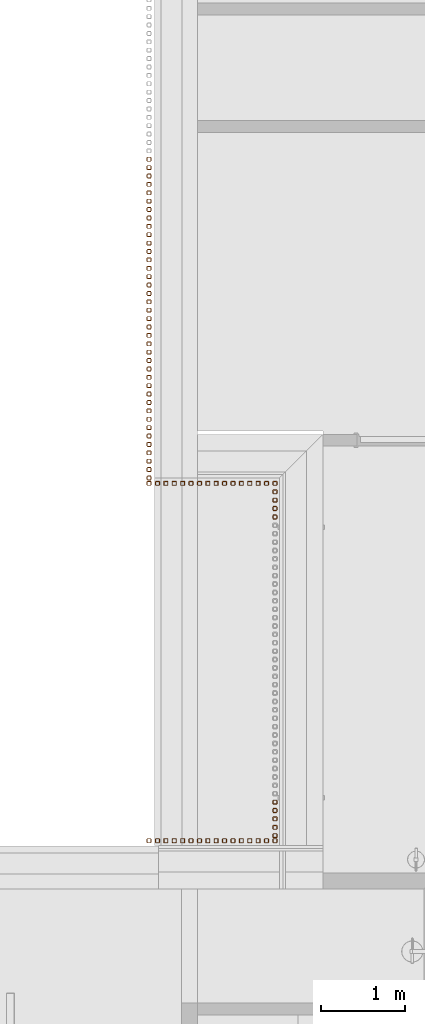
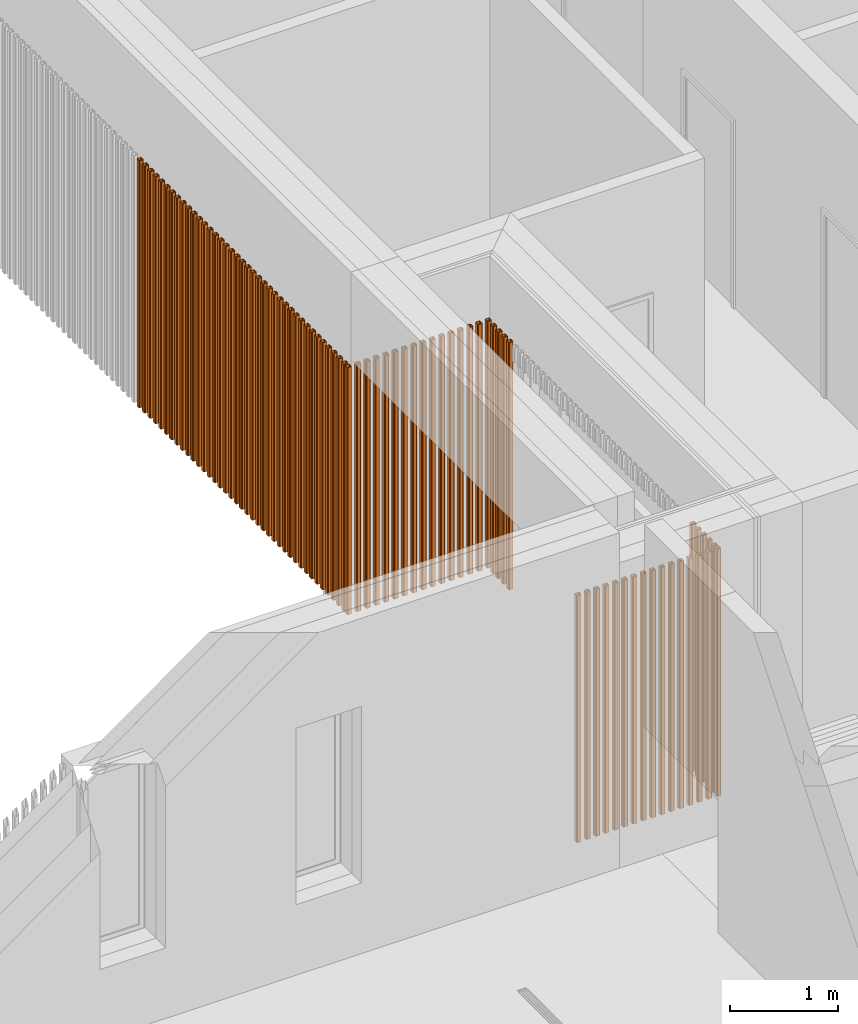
# One storey, part 77 of 112: 80 proxies.
"""IFC2X3 building model written with IfcOpenShell, lengths in millimetres."""

from ifc_helpers import new_model, entity, si_unit, converted_unit, derived_unit, money_unit, direction, frame, origin_with_axes, place, context, subcontext, project, spatial, faceted_brep, source, transform, mapped, material, type_object, element, save


model = new_model("IFC2X3")

# Units and contexts
model_context = context("Model", 3, precision=0.01, world=origin_with_axes(), true_north=direction((0.0, 1.0)))
body_context = subcontext(model_context, "Body", "Model", "MODEL_VIEW")
ifc_project = project(units=[si_unit("LENGTHUNIT", "METRE", prefix="MILLI"), si_unit("AREAUNIT", "SQUARE_METRE"), si_unit("VOLUMEUNIT", "CUBIC_METRE"), converted_unit("PLANEANGLEUNIT", "DEGREE", entity("IfcPlaneAngleMeasure", 0.0174532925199), si_unit("PLANEANGLEUNIT", "RADIAN"), dimensions=[0, 0, 0, 0, 0, 0, 0]), si_unit("SOLIDANGLEUNIT", "STERADIAN"), money_unit("EUR"), converted_unit("TIMEUNIT", "Year", entity("IfcTimeMeasure", 31556926.0), si_unit("TIMEUNIT", "SECOND"), dimensions=[0, 0, 1, 0, 0, 0, 0]), si_unit("MASSUNIT", "GRAM", prefix="KILO"), si_unit("THERMODYNAMICTEMPERATUREUNIT", "DEGREE_CELSIUS"), si_unit("LUMINOUSINTENSITYUNIT", "LUMEN"), si_unit("ENERGYUNIT", "JOULE", prefix="MEGA"), derived_unit("THERMALCONDUCTANCEUNIT", [(si_unit("POWERUNIT", "WATT"), 1), (si_unit("LENGTHUNIT", "METRE"), -1), (si_unit("THERMODYNAMICTEMPERATUREUNIT", "KELVIN"), -1)]), derived_unit("SPECIFICHEATCAPACITYUNIT", [(si_unit("ENERGYUNIT", "JOULE"), 1), (si_unit("MASSUNIT", "GRAM", prefix="KILO"), -1), (si_unit("THERMODYNAMICTEMPERATUREUNIT", "KELVIN"), -1)]), derived_unit("MASSDENSITYUNIT", [(si_unit("MASSUNIT", "GRAM", prefix="KILO"), 1), (si_unit("VOLUMEUNIT", "CUBIC_METRE"), -1)])], contexts=[model_context])

# Site, building, storey
site_placement = place(None, origin_with_axes())
site = spatial("IfcSite", under=ifc_project, at=site_placement, Name="Politse- ja Piirivalveameti ning Päästeameti ühishoone", CompositionType="ELEMENT")
building_placement = place(site_placement, origin_with_axes())
building = spatial("IfcBuilding", under=site, at=building_placement, Name="Politse- ja Piirivalveameti ning Päästeameti ühishoone", CompositionType="ELEMENT")
storey_placement = place(building_placement, origin_with_axes())
storey = spatial("IfcBuildingStorey", under=building, at=storey_placement, Name="Esimene korrus", CompositionType="ELEMENT", Elevation=0.0)

# Proxies
ifc_material = material(Name="ET-05_Teras")
building_element_proxy_type = type_object("IfcBuildingElementProxyType", Name="SHS Cold-Formed Column 23", PredefinedType="NOTDEFINED")
shared_shape_1 = source(origin_with_axes(), body_context, "Body", "Brep", [
    faceted_brep([(-17.0, -25.0, 0.0), (17.0, -25.0, 0.0), (17.0, -25.0, 2800.0), (-17.0, -25.0, 2800.0), (-22.6568542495, -22.6568542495, 0.0), (-25.0, -17.0, 0.0), (-25.0, 17.0, 0.0), (-22.6568542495, 22.6568542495, 0.0), (-17.0, 25.0, 0.0), (17.0, 25.0, 0.0), (22.6568542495, 22.6568542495, 0.0), (25.0, 17.0, 0.0), (25.0, -17.0, 0.0), (22.6568542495, -22.6568542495, 0.0), (-17.0, -21.0, 0.0), (17.0, -21.0, 0.0), (19.8284271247, -19.8284271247, 0.0), (21.0, -17.0, 0.0), (21.0, 17.0, 0.0), (19.8284271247, 19.8284271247, 0.0), (17.0, 21.0, 0.0), (-17.0, 21.0, 0.0), (-19.8284271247, 19.8284271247, 0.0), (-21.0, 17.0, 0.0), (-21.0, -17.0, 0.0), (-19.8284271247, -19.8284271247, 0.0), (22.6568542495, -22.6568542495, 2800.0), (25.0, -17.0, 2800.0), (25.0, 17.0, 2800.0), (22.6568542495, 22.6568542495, 2800.0), (17.0, 25.0, 2800.0), (-17.0, 25.0, 2800.0), (-22.6568542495, 22.6568542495, 2800.0), (-25.0, 17.0, 2800.0), (-25.0, -17.0, 2800.0), (-22.6568542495, -22.6568542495, 2800.0), (-17.0, -21.0, 2800.0), (-19.8284271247, -19.8284271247, 2800.0), (-21.0, -17.0, 2800.0), (-21.0, 17.0, 2800.0), (-19.8284271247, 19.8284271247, 2800.0), (-17.0, 21.0, 2800.0), (17.0, 21.0, 2800.0), (19.8284271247, 19.8284271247, 2800.0), (21.0, 17.0, 2800.0), (21.0, -17.0, 2800.0), (19.8284271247, -19.8284271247, 2800.0), (17.0, -21.0, 2800.0)], [[[0, 1, 2, 3]], [[0, 4, 5, 6, 7, 8, 9, 10, 11, 12, 13, 1], [14, 15, 16, 17, 18, 19, 20, 21, 22, 23, 24, 25]], [[1, 13, 26, 2]], [[3, 2, 26, 27, 28, 29, 30, 31, 32, 33, 34, 35], [36, 37, 38, 39, 40, 41, 42, 43, 44, 45, 46, 47]], [[4, 0, 3, 35]], [[5, 4, 35, 34]], [[6, 5, 34, 33]], [[7, 6, 33, 32]], [[8, 7, 32, 31]], [[9, 8, 31, 30]], [[10, 9, 30, 29]], [[11, 10, 29, 28]], [[12, 11, 28, 27]], [[13, 12, 27, 26]], [[15, 14, 36, 47]], [[16, 15, 47, 46]], [[17, 16, 46, 45]], [[18, 17, 45, 44]], [[19, 18, 44, 43]], [[20, 19, 43, 42]], [[21, 20, 42, 41]], [[22, 21, 41, 40]], [[23, 22, 40, 39]], [[24, 23, 39, 38]], [[25, 24, 38, 37]], [[14, 25, 37, 36]]]),
])
for number, where, z_axis, x_axis in (
    (1, (61085.9088163, 21574.5963278, 0.0), (0.0, 0.0, 1.0), (0.0, 1.0, 0.0)),
    (2, (59585.9088163, 21574.5963278, 0.0), (0.0, 0.0, 1.0), (0.0, 1.0, 0.0)),
    (3, (59685.9088163, 21574.5963278, 0.0), (0.0, 0.0, 1.0), (0.0, 1.0, 0.0)),
    (4, (59785.9088163, 21574.5963278, 0.0), (0.0, 0.0, 1.0), (0.0, 1.0, 0.0)),
    (5, (59885.9088163, 21574.5963278, 0.0), (0.0, 0.0, 1.0), (0.0, 1.0, 0.0)),
    (6, (59985.9088163, 21574.5963278, 0.0), (0.0, 0.0, 1.0), (0.0, 1.0, 0.0)),
    (7, (60085.9088163, 21574.5963278, 0.0), (0.0, 0.0, 1.0), (0.0, 1.0, 0.0)),
    (8, (60185.9088163, 21574.5963278, 0.0), (0.0, 0.0, 1.0), (0.0, 1.0, 0.0)),
    (9, (60285.9088163, 21574.5963278, 0.0), (0.0, 0.0, 1.0), (0.0, 1.0, 0.0)),
    (10, (60385.9088163, 21574.5963278, 0.0), (0.0, 0.0, 1.0), (0.0, 1.0, 0.0)),
    (11, (60485.9088163, 21574.5963278, 0.0), (0.0, 0.0, 1.0), (0.0, 1.0, 0.0)),
    (12, (60585.9088163, 21574.5963278, 0.0), (0.0, 0.0, 1.0), (0.0, 1.0, 0.0)),
    (13, (60685.9088163, 21574.5963278, 0.0), (0.0, 0.0, 1.0), (0.0, 1.0, 0.0)),
    (14, (60785.9088163, 21574.5963278, 0.0), (0.0, 0.0, 1.0), (0.0, 1.0, 0.0)),
    (15, (60885.9088163, 21574.5963278, 0.0), (0.0, 0.0, 1.0), (0.0, 1.0, 0.0)),
    (16, (60985.9088163, 21574.5963278, 0.0), (0.0, 0.0, 1.0), (0.0, 1.0, 0.0)),
):
    element("IfcBuildingElementProxy", number, at=place(storey_placement, frame(where, z_axis=z_axis, x_axis=x_axis)), inside=storey, type_object=building_element_proxy_type, material=ifc_material, Name="Fassaadiribid", context=body_context, shape_type="MappedRepresentation", body=[
        mapped(shared_shape_1, transform((0.0, 0.0, 0.0))),
    ])
shared_shape_2 = source(origin_with_axes(), body_context, "Body", "Brep", [
    faceted_brep([(17.0, -25.0, 0.0), (17.0, -25.0, 2800.0), (-17.0, -25.0, 2800.0), (-17.0, -25.0, 0.0), (22.6568542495, -22.6568542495, 0.0), (22.6568542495, -22.6568542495, 2800.0), (25.0, -17.0, 2800.0), (25.0, 17.0, 2800.0), (22.6568542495, 22.6568542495, 2800.0), (17.0, 25.0, 2800.0), (-17.0, 25.0, 2800.0), (-22.6568542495, 22.6568542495, 2800.0), (-25.0, 17.0, 2800.0), (-25.0, -17.0, 2800.0), (-22.6568542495, -22.6568542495, 2800.0), (17.0, -21.0, 2800.0), (-17.0, -21.0, 2800.0), (-19.8284271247, -19.8284271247, 2800.0), (-21.0, -17.0, 2800.0), (-21.0, 17.0, 2800.0), (-19.8284271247, 19.8284271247, 2800.0), (-17.0, 21.0, 2800.0), (17.0, 21.0, 2800.0), (19.8284271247, 19.8284271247, 2800.0), (21.0, 17.0, 2800.0), (21.0, -17.0, 2800.0), (19.8284271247, -19.8284271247, 2800.0), (-22.6568542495, -22.6568542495, 0.0), (-25.0, -17.0, 0.0), (-25.0, 17.0, 0.0), (-22.6568542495, 22.6568542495, 0.0), (-17.0, 25.0, 0.0), (17.0, 25.0, 0.0), (22.6568542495, 22.6568542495, 0.0), (25.0, 17.0, 0.0), (25.0, -17.0, 0.0), (17.0, -21.0, 0.0), (19.8284271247, -19.8284271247, 0.0), (21.0, -17.0, 0.0), (21.0, 17.0, 0.0), (19.8284271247, 19.8284271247, 0.0), (17.0, 21.0, 0.0), (-17.0, 21.0, 0.0), (-19.8284271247, 19.8284271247, 0.0), (-21.0, 17.0, 0.0), (-21.0, -17.0, 0.0), (-19.8284271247, -19.8284271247, 0.0), (-17.0, -21.0, 0.0)], [[[0, 1, 2, 3]], [[4, 5, 1, 0]], [[1, 5, 6, 7, 8, 9, 10, 11, 12, 13, 14, 2], [15, 16, 17, 18, 19, 20, 21, 22, 23, 24, 25, 26]], [[3, 2, 14, 27]], [[0, 3, 27, 28, 29, 30, 31, 32, 33, 34, 35, 4], [36, 37, 38, 39, 40, 41, 42, 43, 44, 45, 46, 47]], [[35, 6, 5, 4]], [[34, 7, 6, 35]], [[33, 8, 7, 34]], [[32, 9, 8, 33]], [[31, 10, 9, 32]], [[30, 11, 10, 31]], [[29, 12, 11, 30]], [[28, 13, 12, 29]], [[27, 14, 13, 28]], [[47, 16, 15, 36]], [[46, 17, 16, 47]], [[45, 18, 17, 46]], [[44, 19, 18, 45]], [[43, 20, 19, 44]], [[42, 21, 20, 43]], [[41, 22, 21, 42]], [[40, 23, 22, 41]], [[39, 24, 23, 40]], [[38, 25, 24, 39]], [[37, 26, 25, 38]], [[36, 15, 26, 37]]]),
])
for number, where, z_axis, x_axis in (
    (17, (59585.9088163, 29699.9520832, 0.0), (0.0, 0.0, 1.0), (1.0, 0.0, 0.0)),
    (18, (59585.9088163, 29599.9520832, 0.0), (0.0, 0.0, 1.0), (1.0, 0.0, 0.0)),
    (19, (59585.9088163, 29499.9520832, 0.0), (0.0, 0.0, 1.0), (1.0, 0.0, 0.0)),
    (20, (59585.9088163, 29399.9520832, 0.0), (0.0, 0.0, 1.0), (1.0, 0.0, 0.0)),
    (21, (59585.9088163, 29299.9520832, 0.0), (0.0, 0.0, 1.0), (1.0, 0.0, 0.0)),
    (22, (59585.9088163, 29199.9520832, 0.0), (0.0, 0.0, 1.0), (1.0, 0.0, 0.0)),
    (23, (59585.9088163, 29099.9520832, 0.0), (0.0, 0.0, 1.0), (1.0, 0.0, 0.0)),
    (24, (59585.9088163, 28999.9520832, 0.0), (0.0, 0.0, 1.0), (1.0, 0.0, 0.0)),
    (25, (59585.9088163, 28899.9520832, 0.0), (0.0, 0.0, 1.0), (1.0, 0.0, 0.0)),
    (26, (59585.9088163, 28799.9520832, 0.0), (0.0, 0.0, 1.0), (1.0, 0.0, 0.0)),
    (27, (59585.9088163, 28699.9520832, 0.0), (0.0, 0.0, 1.0), (1.0, 0.0, 0.0)),
    (28, (59585.9088163, 28599.9520832, 0.0), (0.0, 0.0, 1.0), (1.0, 0.0, 0.0)),
    (29, (59585.9088163, 28499.9520832, 0.0), (0.0, 0.0, 1.0), (1.0, 0.0, 0.0)),
    (30, (59585.9088163, 28399.9520832, 0.0), (0.0, 0.0, 1.0), (1.0, 0.0, 0.0)),
    (31, (59585.9088163, 28299.9520832, 0.0), (0.0, 0.0, 1.0), (1.0, 0.0, 0.0)),
    (32, (59585.9088163, 28199.9520832, 0.0), (0.0, 0.0, 1.0), (1.0, 0.0, 0.0)),
    (33, (59585.9088163, 28099.9520832, 0.0), (0.0, 0.0, 1.0), (1.0, 0.0, 0.0)),
    (34, (59585.9088163, 27999.9520832, 0.0), (0.0, 0.0, 1.0), (1.0, 0.0, 0.0)),
    (35, (59585.9088163, 27899.9520832, 0.0), (0.0, 0.0, 1.0), (1.0, 0.0, 0.0)),
    (36, (59585.9088163, 27799.9520832, 0.0), (0.0, 0.0, 1.0), (1.0, 0.0, 0.0)),
    (37, (59585.9088163, 27699.9520832, 0.0), (0.0, 0.0, 1.0), (1.0, 0.0, 0.0)),
    (38, (59585.9088163, 27599.9520832, 0.0), (0.0, 0.0, 1.0), (1.0, 0.0, 0.0)),
    (39, (59585.9088163, 27499.9520832, 0.0), (0.0, 0.0, 1.0), (1.0, 0.0, 0.0)),
    (40, (59585.9088163, 27399.9520832, 0.0), (0.0, 0.0, 1.0), (1.0, 0.0, 0.0)),
    (41, (59585.9088163, 27299.9520832, 0.0), (0.0, 0.0, 1.0), (1.0, 0.0, 0.0)),
    (42, (59585.9088163, 27199.9520832, 0.0), (0.0, 0.0, 1.0), (1.0, 0.0, 0.0)),
    (43, (59585.9088163, 27099.9520832, 0.0), (0.0, 0.0, 1.0), (1.0, 0.0, 0.0)),
    (44, (59585.9088163, 26999.9520832, 0.0), (0.0, 0.0, 1.0), (1.0, 0.0, 0.0)),
    (45, (59585.9088163, 26899.9520832, 0.0), (0.0, 0.0, 1.0), (1.0, 0.0, 0.0)),
    (46, (59585.9088163, 26799.9520832, 0.0), (0.0, 0.0, 1.0), (1.0, 0.0, 0.0)),
    (47, (59585.9088163, 26699.9520832, 0.0), (0.0, 0.0, 1.0), (1.0, 0.0, 0.0)),
    (48, (59585.9088163, 26599.9520832, 0.0), (0.0, 0.0, 1.0), (1.0, 0.0, 0.0)),
    (49, (59585.9088163, 26499.9520832, 0.0), (0.0, 0.0, 1.0), (1.0, 0.0, 0.0)),
    (50, (59585.9088163, 26399.9520832, 0.0), (0.0, 0.0, 1.0), (1.0, 0.0, 0.0)),
    (51, (59585.9088163, 26299.9520832, 0.0), (0.0, 0.0, 1.0), (1.0, 0.0, 0.0)),
    (52, (59585.9088163, 26199.9520832, 0.0), (0.0, 0.0, 1.0), (1.0, 0.0, 0.0)),
    (53, (59585.9088163, 26099.9520832, 0.0), (0.0, 0.0, 1.0), (1.0, 0.0, 0.0)),
    (54, (59585.9088163, 25999.9520832, 0.0), (0.0, 0.0, 1.0), (1.0, 0.0, 0.0)),
    (55, (59585.9088163, 25899.9520832, 0.0), (0.0, 0.0, 1.0), (1.0, 0.0, 0.0)),
    (56, (59585.9088163, 25835.2240928, 0.0), (0.0, 0.0, 1.0), (0.0, 1.0, 0.0)),
    (57, (59685.9088163, 25835.2240928, 0.0), (0.0, 0.0, 1.0), (0.0, 1.0, 0.0)),
    (58, (59785.9088163, 25835.2240928, 0.0), (0.0, 0.0, 1.0), (0.0, 1.0, 0.0)),
    (59, (59885.9088163, 25835.2240928, 0.0), (0.0, 0.0, 1.0), (0.0, 1.0, 0.0)),
    (60, (59985.9088163, 25835.2240928, 0.0), (0.0, 0.0, 1.0), (0.0, 1.0, 0.0)),
    (61, (60085.9088163, 25835.2240928, 0.0), (0.0, 0.0, 1.0), (0.0, 1.0, 0.0)),
    (62, (60185.9088163, 25835.2240928, 0.0), (0.0, 0.0, 1.0), (0.0, 1.0, 0.0)),
    (63, (60285.9088163, 25835.2240928, 0.0), (0.0, 0.0, 1.0), (0.0, 1.0, 0.0)),
    (64, (60385.9088163, 25835.2240928, 0.0), (0.0, 0.0, 1.0), (0.0, 1.0, 0.0)),
    (65, (60485.9088163, 25835.2240928, 0.0), (0.0, 0.0, 1.0), (0.0, 1.0, 0.0)),
    (66, (60585.9088163, 25835.2240928, 0.0), (0.0, 0.0, 1.0), (0.0, 1.0, 0.0)),
    (67, (60685.9088163, 25835.2240928, 0.0), (0.0, 0.0, 1.0), (0.0, 1.0, 0.0)),
    (68, (60785.9088163, 25835.2240928, 0.0), (0.0, 0.0, 1.0), (0.0, 1.0, 0.0)),
    (69, (60885.9088163, 25835.2240928, 0.0), (0.0, 0.0, 1.0), (0.0, 1.0, 0.0)),
    (70, (60985.9088163, 25835.2240928, 0.0), (0.0, 0.0, 1.0), (0.0, 1.0, 0.0)),
    (71, (61085.9088163, 21635.2240928, 0.0), (0.0, 0.0, 1.0), (1.0, 0.0, 0.0)),
    (72, (61085.9088163, 21735.2240928, 0.0), (0.0, 0.0, 1.0), (1.0, 0.0, 0.0)),
    (73, (61085.9088163, 25835.2240928, 0.0), (0.0, 0.0, 1.0), (1.0, 0.0, 0.0)),
    (74, (61085.9088163, 25735.2240928, 0.0), (0.0, 0.0, 1.0), (1.0, 0.0, 0.0)),
    (75, (61085.9088163, 25635.2240928, 0.0), (0.0, 0.0, 1.0), (1.0, 0.0, 0.0)),
    (76, (61085.9088163, 25535.2240928, 0.0), (0.0, 0.0, 1.0), (1.0, 0.0, 0.0)),
    (77, (61085.9088163, 25435.2240928, 0.0), (0.0, 0.0, 1.0), (1.0, 0.0, 0.0)),
    (78, (61085.9088163, 22035.2240928, 0.0), (0.0, 0.0, 1.0), (1.0, 0.0, 0.0)),
    (79, (61085.9088163, 21935.2240928, 0.0), (0.0, 0.0, 1.0), (1.0, 0.0, 0.0)),
    (80, (61085.9088163, 21835.2240928, 0.0), (0.0, 0.0, 1.0), (1.0, 0.0, 0.0)),
):
    element("IfcBuildingElementProxy", number, at=place(storey_placement, frame(where, z_axis=z_axis, x_axis=x_axis)), inside=storey, type_object=building_element_proxy_type, material=ifc_material, Name="Fassaadiribid", context=body_context, shape_type="MappedRepresentation", body=[
        mapped(shared_shape_2, transform((0.0, 0.0, 0.0))),
    ])

save(model, "model.ifc")
